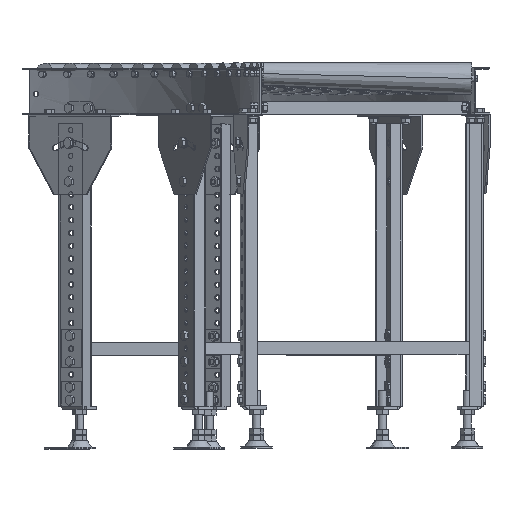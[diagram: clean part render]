
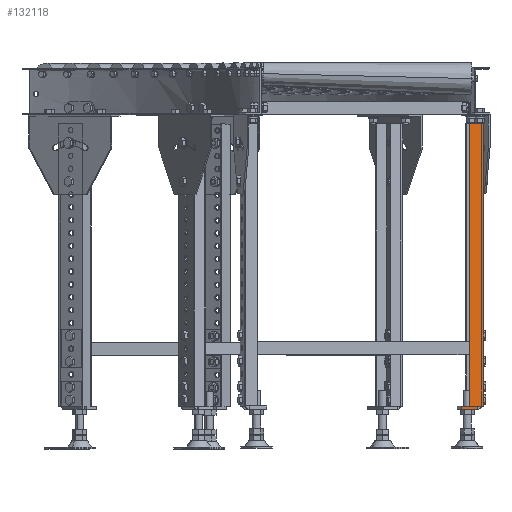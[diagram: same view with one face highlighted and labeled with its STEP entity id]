
A CAD part, top view. The second image highlights one B-rep face of the part: STEP entity #132118.
In plain terms, the highlighted planar face has unit normal (0.131, 0, 0.991).
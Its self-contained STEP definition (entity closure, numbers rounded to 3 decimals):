
#453 = DIRECTION ( 'NONE',  ( -0.991, 0., 0.131 ) ) ;
#5428 = CARTESIAN_POINT ( 'NONE',  ( 1332.74, -117.5, -145.2 ) ) ;
#6158 = DIRECTION ( 'NONE',  ( -0.131, 0., -0.991 ) ) ;
#8027 = EDGE_CURVE ( 'NONE', #44729, #100623, #30469, .T. ) ;
#9729 = LINE ( 'NONE', #90585, #140236 ) ;
#11854 = CARTESIAN_POINT ( 'NONE',  ( 1321.636, -667.5, -143.738 ) ) ;
#11877 = CARTESIAN_POINT ( 'NONE',  ( 1321.636, -667.5, -143.738 ) ) ;
#12901 = DIRECTION ( 'NONE',  ( 0., -1., 0. ) ) ;
#13843 = CARTESIAN_POINT ( 'NONE',  ( 1332.74, -117.5, -145.2 ) ) ;
#14440 = CARTESIAN_POINT ( 'NONE',  ( 1332.74, -155.299, -145.2 ) ) ;
#16266 = LINE ( 'NONE', #84003, #102072 ) ;
#18576 = LINE ( 'NONE', #124641, #59814 ) ;
#20157 = CARTESIAN_POINT ( 'NONE',  ( 1305.971, -117.5, -141.675 ) ) ;
#22641 = VERTEX_POINT ( 'NONE', #14440 ) ;
#26499 = ORIENTED_EDGE ( 'NONE', *, *, #50775, .T. ) ;
#26865 = VERTEX_POINT ( 'NONE', #114505 ) ;
#29067 = AXIS2_PLACEMENT_3D ( 'NONE', #76213, #6158, #143595 ) ;
#29225 = VERTEX_POINT ( 'NONE', #94373 ) ;
#29507 = LINE ( 'NONE', #102734, #117134 ) ;
#30469 = LINE ( 'NONE', #31822, #73589 ) ;
#30784 = ORIENTED_EDGE ( 'NONE', *, *, #74856, .T. ) ;
#31822 = CARTESIAN_POINT ( 'NONE',  ( 1332.74, -117.5, -145.2 ) ) ;
#31923 = ORIENTED_EDGE ( 'NONE', *, *, #50667, .F. ) ;
#32351 = EDGE_CURVE ( 'NONE', #144527, #29225, #140716, .T. ) ;
#32643 = CARTESIAN_POINT ( 'NONE',  ( 1305.971, -667.5, -141.675 ) ) ;
#33400 = ORIENTED_EDGE ( 'NONE', *, *, #32351, .F. ) ;
#36312 = EDGE_CURVE ( 'NONE', #106083, #82927, #18576, .T. ) ;
#38090 = LINE ( 'NONE', #32643, #64973 ) ;
#39642 = ORIENTED_EDGE ( 'NONE', *, *, #127593, .F. ) ;
#40747 = PLANE ( 'NONE',  #29067 ) ;
#42899 = DIRECTION ( 'NONE',  ( 0., -1., 0. ) ) ;
#44729 = VERTEX_POINT ( 'NONE', #61308 ) ;
#44765 = CARTESIAN_POINT ( 'NONE',  ( 1332.74, -255., -145.2 ) ) ;
#46929 = LINE ( 'NONE', #132877, #51157 ) ;
#49039 = VECTOR ( 'NONE', #121623, 1000. ) ;
#50457 = FACE_OUTER_BOUND ( 'NONE', #94125, .T. ) ;
#50667 = EDGE_CURVE ( 'NONE', #53098, #71686, #131134, .T. ) ;
#50775 = EDGE_CURVE ( 'NONE', #144527, #26865, #38090, .T. ) ;
#51157 = VECTOR ( 'NONE', #64504, 1000. ) ;
#53098 = VERTEX_POINT ( 'NONE', #89823 ) ;
#58661 = DIRECTION ( 'NONE',  ( 0., -1., 0. ) ) ;
#59814 = VECTOR ( 'NONE', #101183, 1000. ) ;
#61308 = CARTESIAN_POINT ( 'NONE',  ( 1332.74, -167.308, -145.2 ) ) ;
#63471 = DIRECTION ( 'NONE',  ( 0., -1., 0. ) ) ;
#64504 = DIRECTION ( 'NONE',  ( 0., -1., 0. ) ) ;
#64973 = VECTOR ( 'NONE', #135565, 1000. ) ;
#66563 = EDGE_CURVE ( 'NONE', #22641, #44729, #121639, .T. ) ;
#69468 = DIRECTION ( 'NONE',  ( 0., -1., 0. ) ) ;
#71489 = ORIENTED_EDGE ( 'NONE', *, *, #66563, .F. ) ;
#71686 = VERTEX_POINT ( 'NONE', #5428 ) ;
#73589 = VECTOR ( 'NONE', #42899, 1000. ) ;
#74856 = EDGE_CURVE ( 'NONE', #93006, #106083, #29507, .T. ) ;
#76213 = CARTESIAN_POINT ( 'NONE',  ( 1305.971, -117.5, -141.675 ) ) ;
#77209 = CARTESIAN_POINT ( 'NONE',  ( 1288.918, -667.5, -139.43 ) ) ;
#79084 = ORIENTED_EDGE ( 'NONE', *, *, #36312, .T. ) ;
#81272 = DIRECTION ( 'NONE',  ( -0.991, 0., 0.131 ) ) ;
#82144 = CARTESIAN_POINT ( 'NONE',  ( 1305.971, -117.5, -141.675 ) ) ;
#82927 = VERTEX_POINT ( 'NONE', #136068 ) ;
#83333 = CARTESIAN_POINT ( 'NONE',  ( 1305.971, -667.5, -141.675 ) ) ;
#84003 = CARTESIAN_POINT ( 'NONE',  ( 1332.74, -117.5, -145.2 ) ) ;
#88082 = EDGE_CURVE ( 'NONE', #53098, #93006, #121282, .T. ) ;
#89823 = CARTESIAN_POINT ( 'NONE',  ( 1305.971, -117.5, -141.675 ) ) ;
#90585 = CARTESIAN_POINT ( 'NONE',  ( 1288.918, -673.5, -139.43 ) ) ;
#93006 = VERTEX_POINT ( 'NONE', #83333 ) ;
#94125 = EDGE_LOOP ( 'NONE', ( #141981, #30784, #79084, #39642, #33400, #26499, #134219, #133661, #71489, #141243, #31923 ) ) ;
#94373 = CARTESIAN_POINT ( 'NONE',  ( 1321.636, -673.5, -143.738 ) ) ;
#100623 = VERTEX_POINT ( 'NONE', #44765 ) ;
#101183 = DIRECTION ( 'NONE',  ( 0., -1., 0. ) ) ;
#102072 = VECTOR ( 'NONE', #63471, 1000. ) ;
#102734 = CARTESIAN_POINT ( 'NONE',  ( 1288.918, -667.5, -139.43 ) ) ;
#106083 = VERTEX_POINT ( 'NONE', #77209 ) ;
#110253 = EDGE_CURVE ( 'NONE', #100623, #26865, #46929, .T. ) ;
#114505 = CARTESIAN_POINT ( 'NONE',  ( 1332.74, -667.5, -145.2 ) ) ;
#117134 = VECTOR ( 'NONE', #81272, 1000. ) ;
#121282 = LINE ( 'NONE', #82144, #140952 ) ;
#121623 = DIRECTION ( 'NONE',  ( 0.991, 0., -0.131 ) ) ;
#121639 = LINE ( 'NONE', #13843, #135957 ) ;
#124641 = CARTESIAN_POINT ( 'NONE',  ( 1288.918, -667.5, -139.43 ) ) ;
#127593 = EDGE_CURVE ( 'NONE', #29225, #82927, #9729, .T. ) ;
#131134 = LINE ( 'NONE', #20157, #49039 ) ;
#132118 = ADVANCED_FACE ( 'NONE', ( #50457 ), #40747, .F. ) ;
#132877 = CARTESIAN_POINT ( 'NONE',  ( 1332.74, -117.5, -145.2 ) ) ;
#133661 = ORIENTED_EDGE ( 'NONE', *, *, #8027, .F. ) ;
#134219 = ORIENTED_EDGE ( 'NONE', *, *, #110253, .F. ) ;
#135565 = DIRECTION ( 'NONE',  ( 0.991, 0., -0.131 ) ) ;
#135957 = VECTOR ( 'NONE', #12901, 1000. ) ;
#136068 = CARTESIAN_POINT ( 'NONE',  ( 1288.918, -673.5, -139.43 ) ) ;
#140236 = VECTOR ( 'NONE', #453, 1000. ) ;
#140716 = LINE ( 'NONE', #11877, #142398 ) ;
#140952 = VECTOR ( 'NONE', #58661, 1000. ) ;
#141243 = ORIENTED_EDGE ( 'NONE', *, *, #145349, .F. ) ;
#141981 = ORIENTED_EDGE ( 'NONE', *, *, #88082, .T. ) ;
#142398 = VECTOR ( 'NONE', #69468, 1000. ) ;
#143595 = DIRECTION ( 'NONE',  ( -0.991, 0., 0.131 ) ) ;
#144527 = VERTEX_POINT ( 'NONE', #11854 ) ;
#145349 = EDGE_CURVE ( 'NONE', #71686, #22641, #16266, .T. ) ;
